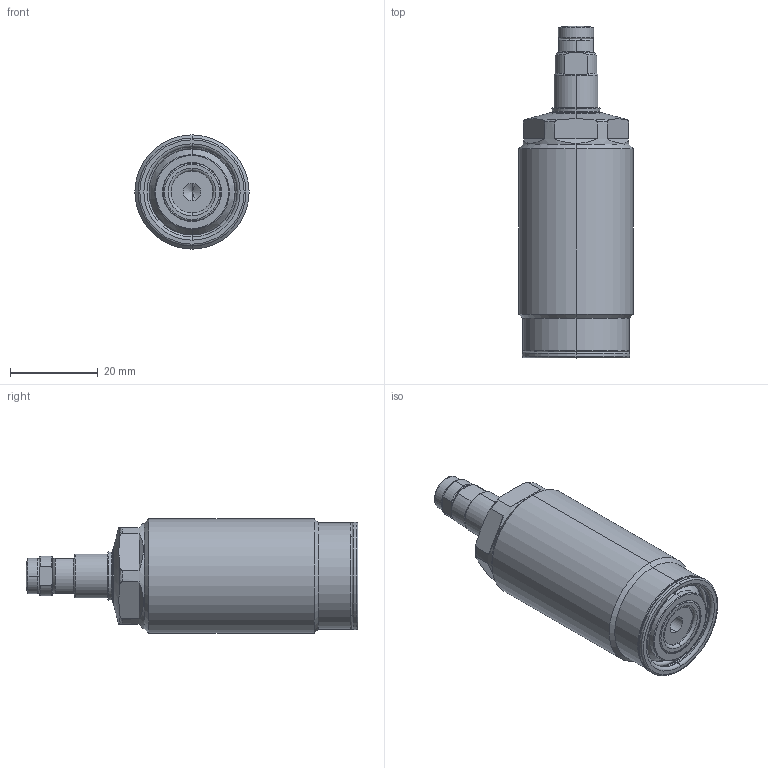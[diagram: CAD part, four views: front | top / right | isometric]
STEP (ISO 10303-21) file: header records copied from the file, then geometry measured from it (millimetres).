
FILE_DESCRIPTION(/* description */ (''),/* implementation_level */ '2;1');
FILE_NAME(/* name */ 'TSS26-M.stp',/* time_stamp */ '2026-02-04T12:47:48+08:00',/* author */ (''),/* organization */ (''),/* preprocessor_version */ 'ST-DEVELOPER v16.7',/* originating_system */ 'SIEMENS PLM Software NX 12.0',/* authorisation */ '');
FILE_SCHEMA (('AUTOMOTIVE_DESIGN { 1 0 10303 214 3 1 1 1 }'));
Length unit declared in the file: millimetre
Products named in the file (11): XLD-M6SP_pad166; XLD-M6SP_pin167; XLD-M6SP_contactbolt168; XLD-M6SP_Oring169; XLD-M6_Oring170; TSS26-03; TSS26-M04172; TSS26-M02173; XLDM6SP174; TSS26-M01175; TSS26-M_stp
Assembly tree (10 placements, depth 3):
  TSS26-M_stp
    TSS26-M01175
      XLD-M6_Oring170
    TSS26-M02173
    TSS26-M04172
    TSS26-03
    XLDM6SP174
      XLD-M6SP_Oring169
      XLD-M6SP_contactbolt168
      XLD-M6SP_pin167
      XLD-M6SP_pad166
Bounding box: 26 x 75.5 x 26 mm (x, y, z)
Volume: 28037.4 mm3; surface area: 8199.2 mm2
Topology: 8 solids, 8 shells, 235 faces, 523 edges, 309 vertices
Faces by surface type: torus 74, cylinder 63, cone 49, plane 45, sphere 4
Entity records: 7383 total; most frequent: CARTESIAN_POINT 1802, DIRECTION 1259, ORIENTED_EDGE 1042, AXIS2_PLACEMENT_3D 556, EDGE_CURVE 521, CIRCLE 310, VERTEX_POINT 309, EDGE_LOOP 256
